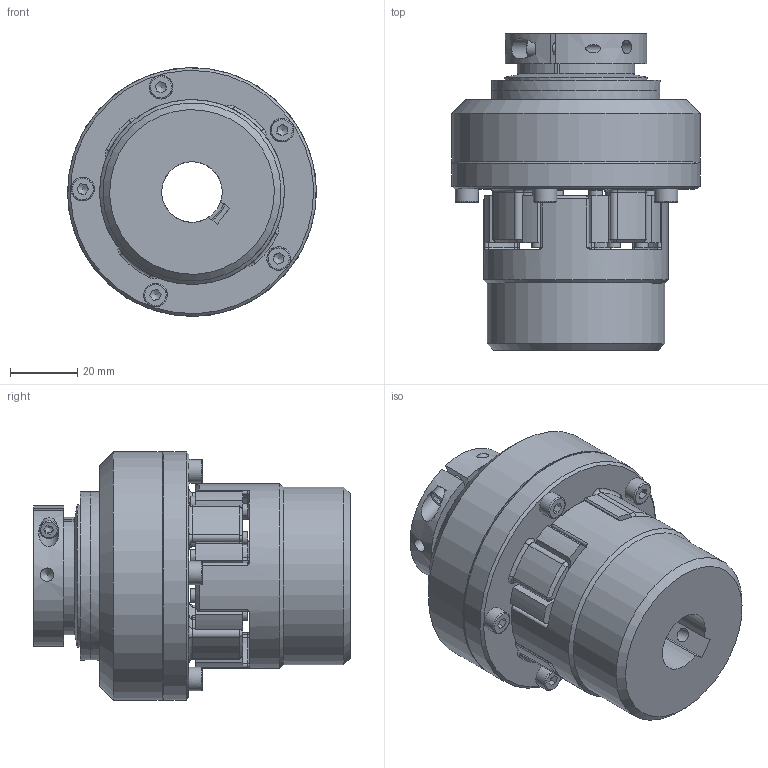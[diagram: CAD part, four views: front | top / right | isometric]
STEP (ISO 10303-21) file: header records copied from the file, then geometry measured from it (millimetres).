
FILE_DESCRIPTION( ( 'Unknown' ), '1' );
FILE_NAME( 'R:/UTP/progettazione/3 D/SPECIALI - FINITI/DF/COMPLESSIVI/DF-GAS/0-50 DF-GR d18_GAS0 d18 LOCKING A1.stp', 'Unknown', ( 'Unknown' ), ( 'Unknown' ), 'PSStep 10.1', 'Unknown', ' ' );
FILE_SCHEMA( ( 'AUTOMOTIVE_DESIGN { 1 0 10303 214 1 1 1 1 }' ) );
Length unit declared in the file: millimetre
Products named in the file (1): 1
Bounding box: 73.97 x 94.2 x 73.97 mm (x, y, z)
Volume: 199021.9 mm3; surface area: 54410.2 mm2
Topology: 1 solids, 12 shells, 426 faces, 1138 edges, 731 vertices
Faces by surface type: cylinder 160, plane 127, torus 72, cone 67
Full cylindrical faces by diameter (mm): 2.459 x1, 3 x1, 3.242 x6, 3.5 x1, 4 x18, 4.134 x1, 4.5 x5, 5.5 x1, 7 x5, 20 x1, 27 x1, 31.5 x1, 35 x1, 36 x1, 42.5 x1, 49.99 x2, 50 x2, 51 x1, 53 x1, 55 x3, 74 x2
Entity records: 18437 total; most frequent: CARTESIAN_POINT 3245, DIRECTION 2208, ORIENTED_EDGE 1944, EDGE_CURVE 972, AXIS2_PLACEMENT_3D 948, PRESENTATION_STYLE_ASSIGNMENT 853, COLOUR_RGB 853, VERTEX_POINT 667
